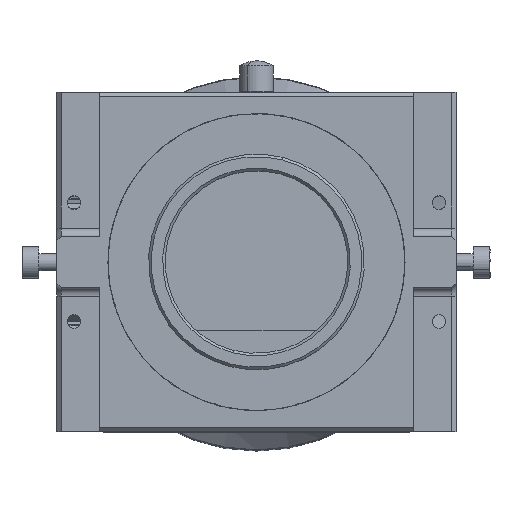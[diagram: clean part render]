
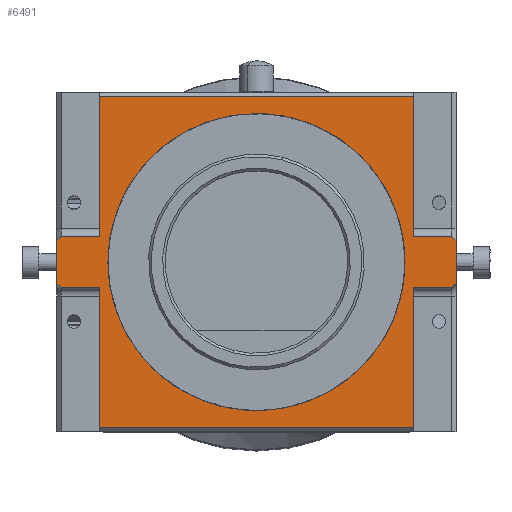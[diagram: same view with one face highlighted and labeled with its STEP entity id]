
A CAD part, top view. The second image highlights one B-rep face of the part: STEP entity #6491.
In plain terms, the highlighted planar face has unit normal (0, 0, 1).
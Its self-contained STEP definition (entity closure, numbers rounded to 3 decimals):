
#79 = VERTEX_POINT ( 'NONE', #30206 ) ;
#509 = CARTESIAN_POINT ( 'NONE',  ( 23.5, -19.5, 90.211 ) ) ;
#567 = DIRECTION ( 'NONE',  ( -0.707, -0.707, 0. ) ) ;
#618 = VERTEX_POINT ( 'NONE', #30275 ) ;
#862 = VERTEX_POINT ( 'NONE', #26446 ) ;
#887 = DIRECTION ( 'NONE',  ( -0.707, 0.707, 0. ) ) ;
#972 = LINE ( 'NONE', #7414, #24202 ) ;
#1041 = DIRECTION ( 'NONE',  ( 0., 1., 0. ) ) ;
#1246 = CARTESIAN_POINT ( 'NONE',  ( 17.5, 0., 90.211 ) ) ;
#1838 = EDGE_CURVE ( 'NONE', #20487, #14902, #21592, .T. ) ;
#1864 = VERTEX_POINT ( 'NONE', #28824 ) ;
#2523 = EDGE_CURVE ( 'NONE', #9428, #27561, #21561, .T. ) ;
#3127 = VECTOR ( 'NONE', #7545, 1000. ) ;
#3284 = EDGE_CURVE ( 'NONE', #14902, #20487, #28025, .T. ) ;
#3423 = LINE ( 'NONE', #28110, #20206 ) ;
#3437 = DIRECTION ( 'NONE',  ( 1., 0., 0. ) ) ;
#3474 = CARTESIAN_POINT ( 'NONE',  ( -23.5, 2.5, 90.211 ) ) ;
#4519 = CARTESIAN_POINT ( 'NONE',  ( 18.5, 19.5, 90.211 ) ) ;
#4728 = VECTOR ( 'NONE', #30251, 1000. ) ;
#5345 = ORIENTED_EDGE ( 'NONE', *, *, #29170, .F. ) ;
#5375 = AXIS2_PLACEMENT_3D ( 'NONE', #25182, #25089, #8174 ) ;
#5515 = VECTOR ( 'NONE', #887, 1000. ) ;
#6167 = FACE_OUTER_BOUND ( 'NONE', #7799, .T. ) ;
#6271 = ORIENTED_EDGE ( 'NONE', *, *, #3284, .T. ) ;
#6295 = ORIENTED_EDGE ( 'NONE', *, *, #1838, .T. ) ;
#6297 = CARTESIAN_POINT ( 'NONE',  ( 23.5, 2.5, 90.211 ) ) ;
#6491 = ADVANCED_FACE ( 'NONE', ( #6167, #29773 ), #13257, .T. ) ;
#6510 = EDGE_CURVE ( 'NONE', #29060, #862, #14959, .T. ) ;
#6926 = ORIENTED_EDGE ( 'NONE', *, *, #30555, .T. ) ;
#7082 = LINE ( 'NONE', #7248, #12829 ) ;
#7248 = CARTESIAN_POINT ( 'NONE',  ( 23.5, 3., 90.211 ) ) ;
#7278 = CARTESIAN_POINT ( 'NONE',  ( 23.5, -20., 90.211 ) ) ;
#7414 = CARTESIAN_POINT ( 'NONE',  ( 23.5, -3., 90.211 ) ) ;
#7545 = DIRECTION ( 'NONE',  ( -1., 0., 0. ) ) ;
#7614 = DIRECTION ( 'NONE',  ( 1., 0., 0. ) ) ;
#7718 = VECTOR ( 'NONE', #29651, 1000. ) ;
#7799 = EDGE_LOOP ( 'NONE', ( #26721, #15201, #13539, #13969, #23682, #9706, #10820, #8111, #12984, #11553, #6926, #10145, #31196, #13173, #5345, #25803 ) ) ;
#7995 = DIRECTION ( 'NONE',  ( 0.707, 0.707, 0. ) ) ;
#8010 = EDGE_CURVE ( 'NONE', #16426, #618, #13628, .T. ) ;
#8111 = ORIENTED_EDGE ( 'NONE', *, *, #15745, .T. ) ;
#8174 = DIRECTION ( 'NONE',  ( 1., 0., 0. ) ) ;
#8372 = DIRECTION ( 'NONE',  ( 0., 0., 1. ) ) ;
#8614 = CARTESIAN_POINT ( 'NONE',  ( 18.5, -20., 90.211 ) ) ;
#8973 = VERTEX_POINT ( 'NONE', #10903 ) ;
#9428 = VERTEX_POINT ( 'NONE', #3474 ) ;
#9592 = CARTESIAN_POINT ( 'NONE',  ( -18.5, -3., 90.211 ) ) ;
#9706 = ORIENTED_EDGE ( 'NONE', *, *, #22153, .T. ) ;
#9951 = CARTESIAN_POINT ( 'NONE',  ( -23., -3., 90.211 ) ) ;
#10145 = ORIENTED_EDGE ( 'NONE', *, *, #16737, .T. ) ;
#10198 = CARTESIAN_POINT ( 'NONE',  ( -17.5, 0., 90.211 ) ) ;
#10642 = CARTESIAN_POINT ( 'NONE',  ( 23., 3., 90.211 ) ) ;
#10820 = ORIENTED_EDGE ( 'NONE', *, *, #6510, .F. ) ;
#10903 = CARTESIAN_POINT ( 'NONE',  ( -18.5, -19.5, 90.211 ) ) ;
#11091 = VECTOR ( 'NONE', #16865, 1000. ) ;
#11185 = VERTEX_POINT ( 'NONE', #18480 ) ;
#11282 = CARTESIAN_POINT ( 'NONE',  ( -18.5, 19.5, 90.211 ) ) ;
#11385 = VECTOR ( 'NONE', #23484, 1000. ) ;
#11553 = ORIENTED_EDGE ( 'NONE', *, *, #30840, .T. ) ;
#11664 = LINE ( 'NONE', #17657, #12409 ) ;
#12380 = DIRECTION ( 'NONE',  ( -1., 0., 0. ) ) ;
#12409 = VECTOR ( 'NONE', #30636, 1000. ) ;
#12829 = VECTOR ( 'NONE', #12380, 1000. ) ;
#12984 = ORIENTED_EDGE ( 'NONE', *, *, #13791, .T. ) ;
#13173 = ORIENTED_EDGE ( 'NONE', *, *, #2523, .T. ) ;
#13257 = PLANE ( 'NONE',  #26038 ) ;
#13308 = VERTEX_POINT ( 'NONE', #27617 ) ;
#13539 = ORIENTED_EDGE ( 'NONE', *, *, #8010, .T. ) ;
#13628 = LINE ( 'NONE', #8614, #11385 ) ;
#13791 = EDGE_CURVE ( 'NONE', #79, #14523, #3423, .T. ) ;
#13969 = ORIENTED_EDGE ( 'NONE', *, *, #30613, .T. ) ;
#14155 = VERTEX_POINT ( 'NONE', #9592 ) ;
#14523 = VERTEX_POINT ( 'NONE', #4519 ) ;
#14902 = VERTEX_POINT ( 'NONE', #1246 ) ;
#14946 = LINE ( 'NONE', #16921, #3127 ) ;
#14959 = LINE ( 'NONE', #6297, #27509 ) ;
#15024 = DIRECTION ( 'NONE',  ( 0., -1., 0. ) ) ;
#15051 = LINE ( 'NONE', #20158, #4728 ) ;
#15201 = ORIENTED_EDGE ( 'NONE', *, *, #17744, .T. ) ;
#15382 = VECTOR ( 'NONE', #567, 1000. ) ;
#15408 = CARTESIAN_POINT ( 'NONE',  ( -18.5, -20., 90.211 ) ) ;
#15626 = CARTESIAN_POINT ( 'NONE',  ( -23., -3., 90.211 ) ) ;
#15745 = EDGE_CURVE ( 'NONE', #29060, #79, #15051, .T. ) ;
#15987 = EDGE_LOOP ( 'NONE', ( #6271, #6295 ) ) ;
#16426 = VERTEX_POINT ( 'NONE', #29262 ) ;
#16676 = DIRECTION ( 'NONE',  ( 0., 0., -1. ) ) ;
#16737 = EDGE_CURVE ( 'NONE', #1864, #17553, #7082, .T. ) ;
#16762 = VERTEX_POINT ( 'NONE', #9951 ) ;
#16865 = DIRECTION ( 'NONE',  ( 0., 1., 0. ) ) ;
#16921 = CARTESIAN_POINT ( 'NONE',  ( 23.5, 19.5, 90.211 ) ) ;
#17248 = LINE ( 'NONE', #15408, #7718 ) ;
#17464 = DIRECTION ( 'NONE',  ( 1., 0., 0. ) ) ;
#17553 = VERTEX_POINT ( 'NONE', #23754 ) ;
#17657 = CARTESIAN_POINT ( 'NONE',  ( -18.5, -3., 90.211 ) ) ;
#17744 = EDGE_CURVE ( 'NONE', #8973, #16426, #19629, .T. ) ;
#18022 = VECTOR ( 'NONE', #7614, 1000. ) ;
#18480 = CARTESIAN_POINT ( 'NONE',  ( 23.5, -2.5, 90.211 ) ) ;
#19177 = LINE ( 'NONE', #24850, #18022 ) ;
#19269 = VECTOR ( 'NONE', #17464, 1000. ) ;
#19629 = LINE ( 'NONE', #509, #19269 ) ;
#20158 = CARTESIAN_POINT ( 'NONE',  ( 23.5, 3., 90.211 ) ) ;
#20206 = VECTOR ( 'NONE', #1041, 1000. ) ;
#20486 = CARTESIAN_POINT ( 'NONE',  ( 23.5, -20., 90.211 ) ) ;
#20487 = VERTEX_POINT ( 'NONE', #10198 ) ;
#20677 = LINE ( 'NONE', #22418, #15382 ) ;
#20903 = DIRECTION ( 'NONE',  ( 0.707, -0.707, 0. ) ) ;
#21102 = EDGE_CURVE ( 'NONE', #9428, #17553, #29029, .T. ) ;
#21265 = CARTESIAN_POINT ( 'NONE',  ( 0., 0., 90.211 ) ) ;
#21561 = LINE ( 'NONE', #22251, #27292 ) ;
#21592 = CIRCLE ( 'NONE', #27824, 17.5 ) ;
#22020 = VERTEX_POINT ( 'NONE', #11282 ) ;
#22115 = DIRECTION ( 'NONE',  ( 1., 0., 0. ) ) ;
#22153 = EDGE_CURVE ( 'NONE', #11185, #862, #28976, .T. ) ;
#22251 = CARTESIAN_POINT ( 'NONE',  ( -23.5, -20., 90.211 ) ) ;
#22418 = CARTESIAN_POINT ( 'NONE',  ( 23.5, -2.5, 90.211 ) ) ;
#22540 = VECTOR ( 'NONE', #7995, 1000. ) ;
#23484 = DIRECTION ( 'NONE',  ( 0., 1., 0. ) ) ;
#23657 = CARTESIAN_POINT ( 'NONE',  ( -23.5, -2.5, 90.211 ) ) ;
#23682 = ORIENTED_EDGE ( 'NONE', *, *, #30594, .F. ) ;
#23754 = CARTESIAN_POINT ( 'NONE',  ( -23., 3., 90.211 ) ) ;
#24202 = VECTOR ( 'NONE', #22115, 1000. ) ;
#24850 = CARTESIAN_POINT ( 'NONE',  ( 23.5, -3., 90.211 ) ) ;
#25089 = DIRECTION ( 'NONE',  ( 0., 0., -1. ) ) ;
#25182 = CARTESIAN_POINT ( 'NONE',  ( 0., 0., 90.211 ) ) ;
#25314 = LINE ( 'NONE', #15626, #5515 ) ;
#25803 = ORIENTED_EDGE ( 'NONE', *, *, #26919, .T. ) ;
#26038 = AXIS2_PLACEMENT_3D ( 'NONE', #20486, #8372, #3437 ) ;
#26446 = CARTESIAN_POINT ( 'NONE',  ( 23.5, 2.5, 90.211 ) ) ;
#26721 = ORIENTED_EDGE ( 'NONE', *, *, #28814, .F. ) ;
#26919 = EDGE_CURVE ( 'NONE', #16762, #14155, #972, .T. ) ;
#27292 = VECTOR ( 'NONE', #15024, 1000. ) ;
#27387 = CARTESIAN_POINT ( 'NONE',  ( -23., 3., 90.211 ) ) ;
#27509 = VECTOR ( 'NONE', #20903, 1000. ) ;
#27561 = VERTEX_POINT ( 'NONE', #23657 ) ;
#27617 = CARTESIAN_POINT ( 'NONE',  ( 23., -3., 90.211 ) ) ;
#27824 = AXIS2_PLACEMENT_3D ( 'NONE', #21265, #16676, #30941 ) ;
#28025 = CIRCLE ( 'NONE', #5375, 17.5 ) ;
#28110 = CARTESIAN_POINT ( 'NONE',  ( 18.5, -20., 90.211 ) ) ;
#28814 = EDGE_CURVE ( 'NONE', #8973, #14155, #11664, .T. ) ;
#28824 = CARTESIAN_POINT ( 'NONE',  ( -18.5, 3., 90.211 ) ) ;
#28976 = LINE ( 'NONE', #7278, #11091 ) ;
#29029 = LINE ( 'NONE', #27387, #22540 ) ;
#29060 = VERTEX_POINT ( 'NONE', #10642 ) ;
#29170 = EDGE_CURVE ( 'NONE', #16762, #27561, #25314, .T. ) ;
#29262 = CARTESIAN_POINT ( 'NONE',  ( 18.5, -19.5, 90.211 ) ) ;
#29651 = DIRECTION ( 'NONE',  ( 0., -1., 0. ) ) ;
#29773 = FACE_BOUND ( 'NONE', #15987, .T. ) ;
#30206 = CARTESIAN_POINT ( 'NONE',  ( 18.5, 3., 90.211 ) ) ;
#30251 = DIRECTION ( 'NONE',  ( -1., 0., 0. ) ) ;
#30275 = CARTESIAN_POINT ( 'NONE',  ( 18.5, -3., 90.211 ) ) ;
#30555 = EDGE_CURVE ( 'NONE', #22020, #1864, #17248, .T. ) ;
#30594 = EDGE_CURVE ( 'NONE', #11185, #13308, #20677, .T. ) ;
#30613 = EDGE_CURVE ( 'NONE', #618, #13308, #19177, .T. ) ;
#30636 = DIRECTION ( 'NONE',  ( 0., 1., 0. ) ) ;
#30840 = EDGE_CURVE ( 'NONE', #14523, #22020, #14946, .T. ) ;
#30941 = DIRECTION ( 'NONE',  ( 1., 0., 0. ) ) ;
#31196 = ORIENTED_EDGE ( 'NONE', *, *, #21102, .F. ) ;
